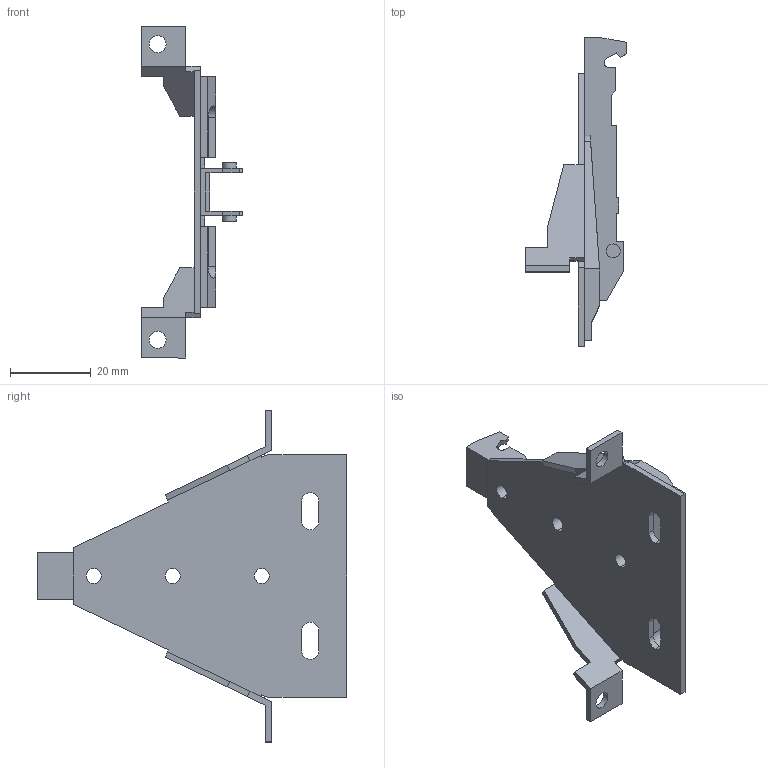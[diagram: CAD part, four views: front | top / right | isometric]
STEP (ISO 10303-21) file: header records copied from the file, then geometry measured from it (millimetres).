
FILE_DESCRIPTION (( 'STEP AP214' ), '1' );
FILE_NAME ('Eco Delta Spax Flange_H 1,5.step', '2010-11-18T10:11:57', ( 'grass' ), ( '' ), 'SwSTEP 2.0', 'SolidWorks 2010', '' );
FILE_SCHEMA (( 'AUTOMOTIVE_DESIGN' ));
Length unit declared in the file: millimetre
Products named in the file (1): Eco Delta Spax Flange_H 1,5
Bounding box: 25 x 76.45 x 82 mm (x, y, z)
Volume: 11903.9 mm3; surface area: 10623.1 mm2
Topology: 1 solids, 1 shells, 145 faces, 421 edges, 280 vertices
Faces by surface type: plane 116, cylinder 29
Entity records: 4796 total; most frequent: CARTESIAN_POINT 862, ORIENTED_EDGE 842, DIRECTION 763, EDGE_CURVE 421, LINE 361, VECTOR 361, VERTEX_POINT 280, AXIS2_PLACEMENT_3D 201
